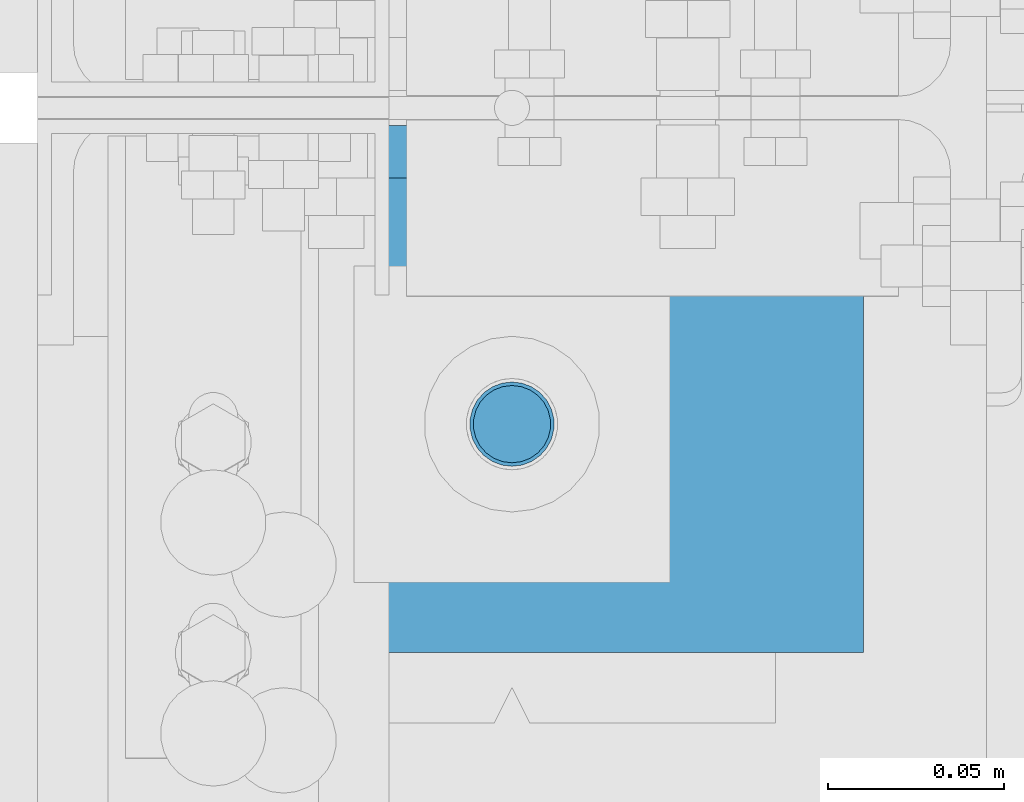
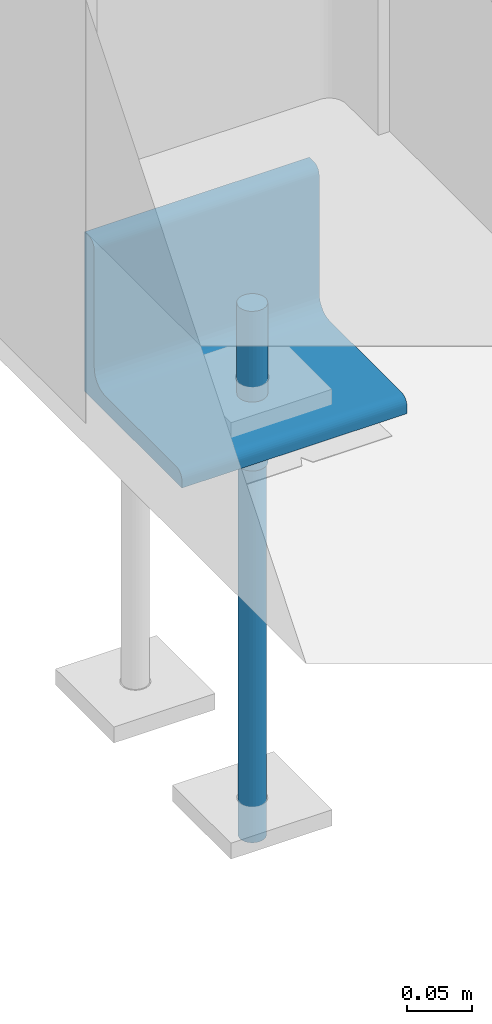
# One storey, part 75 of 362: 3 beams, 2 elements without a shape of their own.
"""IFC2X3 building model written with IfcOpenShell, lengths in millimetres."""

from ifc_helpers import new_model, si_unit, frame, origin_with_axes, origin_2d_with_axis, place, context, subcontext, project, spatial, circle, l_section, extrude, material, type_object, element, aggregate, save


model = new_model("IFC2X3")

# Units and contexts
model_context = context("Model", 3, precision=1e-05, world=origin_with_axes())
body_context = subcontext(model_context, "Body", "Model", "MODEL_VIEW")
ifc_project = project(units=[si_unit("LENGTHUNIT", "METRE", prefix="MILLI"), si_unit("AREAUNIT", "SQUARE_METRE"), si_unit("VOLUMEUNIT", "CUBIC_METRE"), si_unit("MASSUNIT", "GRAM", prefix="KILO"), si_unit("TIMEUNIT", "SECOND"), si_unit("PLANEANGLEUNIT", "RADIAN"), si_unit("SOLIDANGLEUNIT", "STERADIAN"), si_unit("THERMODYNAMICTEMPERATUREUNIT", "DEGREE_CELSIUS"), si_unit("LUMINOUSINTENSITYUNIT", "LUMEN")], contexts=[model_context])

# Site, building, storey
site_placement = place(None, origin_with_axes())
site = spatial("IfcSite", under=ifc_project, at=site_placement, Name="Undefined", CompositionType="ELEMENT")
building_placement = place(site_placement, origin_with_axes())
building = spatial("IfcBuilding", under=site, at=building_placement, Name="Undefined", CompositionType="ELEMENT")
storey_placement = place(building_placement, origin_with_axes())
storey = spatial("IfcBuildingStorey", under=building, at=storey_placement, Name="Undefined", CompositionType="ELEMENT", Elevation=0.0)

# Assembly, beams
assembly_1_placement = place(storey_placement, origin_with_axes())
assembly_1 = element("IfcElementAssembly", 1, at=assembly_1_placement, inside=storey, Name="PRESCELLEMENT PS24", AssemblyPlace="NOTDEFINED", PredefinedType="NOTDEFINED")
ifc_material = material(Name="Undefined/S235-E24")
beam_type_1 = type_object("IfcBeamType", Name="D24", PredefinedType="NOTDEFINED")
beam_1_placement = place(assembly_1_placement, frame((-45.0, 11309.9971504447, -100.0), z_axis=(-1.0, 0.0, 0.0), x_axis=(0.0, 0.0, -1.0)))
beam_1 = element("IfcBeam", 2, at=beam_1_placement, type_object=beam_type_1, material=ifc_material, Name="TIGE D'ANCRAGE", ObjectType="D24", context=body_context, shape_type="SweptSolid", body=[
    extrude(circle(Radius=12.0, at=origin_2d_with_axis()), frame((150.0, 0.0, 0.0), z_axis=(-1.0, 0.0, 0.0), x_axis=(0.0, -1.0, 0.0)), (0.0, 0.0, 1.0), 150.0),
])
beam_type_2 = type_object("IfcBeamType", Name="D22", PredefinedType="NOTDEFINED")
beam_2_placement = place(assembly_1_placement, frame((-45.0, 11309.9971504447, -250.0), z_axis=(-1.0, 0.0, 0.0), x_axis=(0.0, 0.0, -1.0)))
beam_2 = element("IfcBeam", 3, at=beam_2_placement, type_object=beam_type_2, material=ifc_material, Name="TIGE D'ANCRAGE", ObjectType="D22", context=body_context, shape_type="SweptSolid", body=[
    extrude(circle(Radius=11.0, at=origin_2d_with_axis()), frame((350.0, 0.0, 0.0), z_axis=(-1.0, 0.0, 0.0), x_axis=(0.0, -1.0, 0.0)), (0.0, 0.0, 1.0), 350.0),
])
aggregate(assembly_1, [beam_1, beam_2])

# Assembly, beam
assembly_2_placement = place(storey_placement, origin_with_axes())
assembly_2 = element("IfcElementAssembly", 4, at=assembly_2_placement, inside=storey, AssemblyPlace="NOTDEFINED", PredefinedType="NOTDEFINED")
beam_type_3 = type_object("IfcBeamType", Name="L150*15", PredefinedType="NOTDEFINED")
beam_3_placement = place(assembly_2_placement, frame((-145.0, 11320.0, -125.0), z_axis=(0.0, 0.0, 1.0), x_axis=(1.0, 0.0, 0.0)))
beam_3 = element("IfcBeam", 5, at=beam_3_placement, type_object=beam_type_3, material=ifc_material, Name="ATTACHE", ObjectType="L150*15", context=body_context, shape_type="SweptSolid", body=[
    extrude(l_section(Depth=150.0, Width=150.0, Thickness=15.0, FilletRadius=16.0, EdgeRadius=8.0, at=origin_2d_with_axis()), frame((200.0, 0.0, 0.0), z_axis=(-1.0, 0.0, 0.0), x_axis=(0.0, -1.0, 0.0)), (0.0, 0.0, 1.0), 200.0),
])
aggregate(assembly_2, [beam_3])

save(model, "model.ifc")
